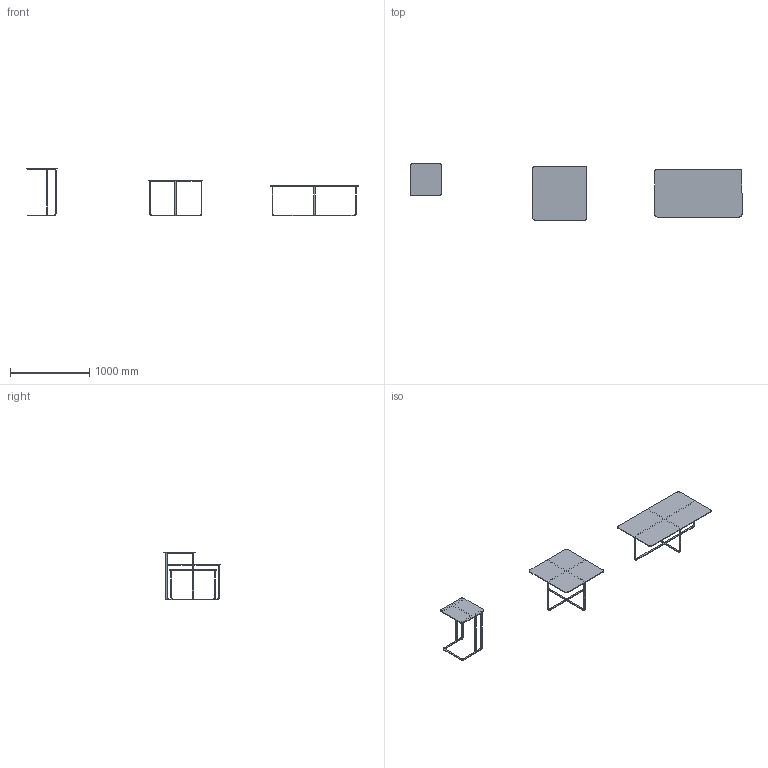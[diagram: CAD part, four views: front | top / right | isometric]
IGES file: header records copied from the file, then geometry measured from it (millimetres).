
Global section: file name: M:\STUDIO polstrin\BA _Datab; native system: Rhinoceros ( May 22 2017 ); preprocessor: Trout Lake IGES 012 May 22 2017; date: 180913.163709; units: centimetre
Bounding box: 4179.76 x 709 x 598 mm (x, y, z)
Surface area: 3357781.7 mm2 (no closed solid volume)
Topology: 0 solids, 0 shells, 234 faces, 2500 edges, 2464 vertices
Faces by surface type: bspline 234
